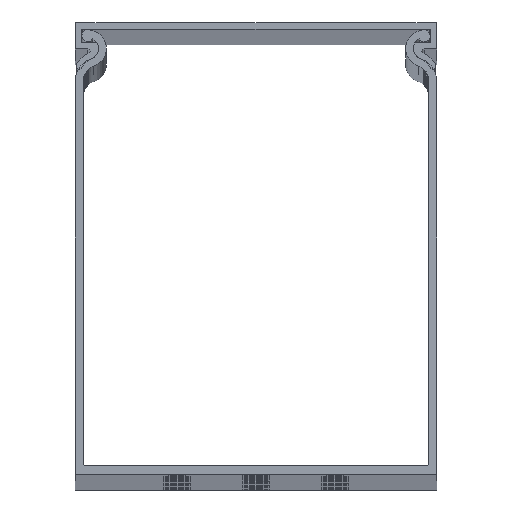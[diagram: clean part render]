
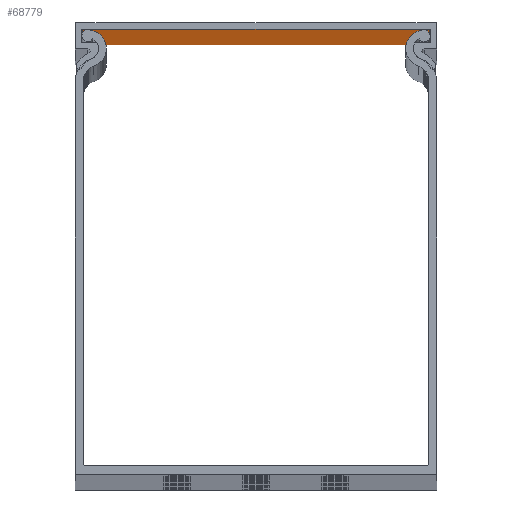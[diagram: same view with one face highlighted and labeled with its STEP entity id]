
A CAD part, top view. The second image highlights one B-rep face of the part: STEP entity #68779.
In plain terms, the highlighted planar face has unit normal (0, -1, 0).
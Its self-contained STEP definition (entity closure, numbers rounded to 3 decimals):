
#2372 = VERTEX_POINT ( 'NONE', #22984 ) ;
#2611 = LINE ( 'NONE', #43832, #67650 ) ;
#5515 = VECTOR ( 'NONE', #48885, 1000. ) ;
#5980 = CARTESIAN_POINT ( 'NONE',  ( 2606.807, 1295.656, 2000. ) ) ;
#6072 = ORIENTED_EDGE ( 'NONE', *, *, #36068, .T. ) ;
#6090 = PLANE ( 'NONE',  #19842 ) ;
#6478 = EDGE_LOOP ( 'NONE', ( #6072, #76101, #25952, #38183 ) ) ;
#8180 = EDGE_CURVE ( 'NONE', #68658, #51954, #57870, .T. ) ;
#10075 = DIRECTION ( 'NONE',  ( 1., 0., 0. ) ) ;
#10833 = VECTOR ( 'NONE', #12014, 1000. ) ;
#12014 = DIRECTION ( 'NONE',  ( 0., 0., -1. ) ) ;
#17853 = CARTESIAN_POINT ( 'NONE',  ( 2568.407, 1295.656, 0. ) ) ;
#19842 = AXIS2_PLACEMENT_3D ( 'NONE', #71457, #77815, #54294 ) ;
#20156 = DIRECTION ( 'NONE',  ( 0., 0., -1. ) ) ;
#22447 = LINE ( 'NONE', #17853, #5515 ) ;
#22984 = CARTESIAN_POINT ( 'NONE',  ( 2530.007, 1295.656, 2000. ) ) ;
#23508 = CARTESIAN_POINT ( 'NONE',  ( 2606.807, 1295.656, 2000. ) ) ;
#23741 = LINE ( 'NONE', #59019, #47282 ) ;
#24285 = VERTEX_POINT ( 'NONE', #36100 ) ;
#25952 = ORIENTED_EDGE ( 'NONE', *, *, #34036, .F. ) ;
#30328 = FACE_OUTER_BOUND ( 'NONE', #6478, .T. ) ;
#34036 = EDGE_CURVE ( 'NONE', #2372, #68658, #23741, .T. ) ;
#36068 = EDGE_CURVE ( 'NONE', #24285, #51954, #22447, .T. ) ;
#36100 = CARTESIAN_POINT ( 'NONE',  ( 2530.007, 1295.656, 0. ) ) ;
#38183 = ORIENTED_EDGE ( 'NONE', *, *, #48731, .T. ) ;
#43049 = CARTESIAN_POINT ( 'NONE',  ( 2606.807, 1295.656, 0. ) ) ;
#43832 = CARTESIAN_POINT ( 'NONE',  ( 2530.007, 1295.656, 2000. ) ) ;
#47282 = VECTOR ( 'NONE', #10075, 1000. ) ;
#48731 = EDGE_CURVE ( 'NONE', #2372, #24285, #2611, .T. ) ;
#48885 = DIRECTION ( 'NONE',  ( 1., 0., 0. ) ) ;
#51954 = VERTEX_POINT ( 'NONE', #43049 ) ;
#54294 = DIRECTION ( 'NONE',  ( 0., 0., 1. ) ) ;
#57870 = LINE ( 'NONE', #5980, #10833 ) ;
#59019 = CARTESIAN_POINT ( 'NONE',  ( 2568.407, 1295.656, 2000. ) ) ;
#67650 = VECTOR ( 'NONE', #20156, 1000. ) ;
#68658 = VERTEX_POINT ( 'NONE', #23508 ) ;
#68779 = ADVANCED_FACE ( 'NONE', ( #30328 ), #6090, .F. ) ;
#71457 = CARTESIAN_POINT ( 'NONE',  ( 2568.407, 1295.656, 2000. ) ) ;
#76101 = ORIENTED_EDGE ( 'NONE', *, *, #8180, .F. ) ;
#77815 = DIRECTION ( 'NONE',  ( 0., 1., 0. ) ) ;
